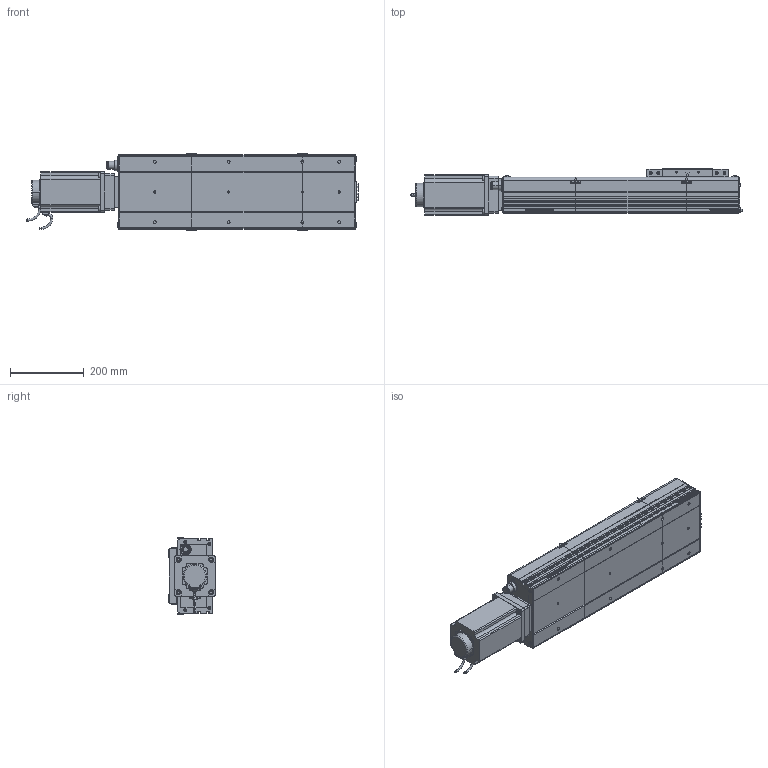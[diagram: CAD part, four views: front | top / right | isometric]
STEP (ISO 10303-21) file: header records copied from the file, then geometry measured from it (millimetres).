
FILE_DESCRIPTION (( 'STEP AP214' ), '1' );
FILE_NAME ('D20 CSH MD S300.STEP', '2010-06-30T07:54:13', ( 'Conseil Régional Haute-Normandie' ), ( 'Conseil Régional Haute-Normandie' ), 'SwSTEP 2.0', 'SolidWorks 2010', '' );
FILE_SCHEMA (( 'AUTOMOTIVE_DESIGN' ));
Length unit declared in the file: millimetre
Products named in the file (28): corps 110BLDC170A-630x; codeur 110BLDC170A-630x; avant 110BLDC170A-630x; Moteur motionking 110BLDC170A-640x; vis M8 L15_Default; Plaque racord D20_Default; Plaque De Serrage Head D20_Default; Glissiere_Default; Support Chariot D20_Default; Chariot D20_Default; vis M5 L15_Default; clavette; Conecteur_Default; Conecteur2_Default; D20 CSH MD S300; Couvercle_Default; Corp Tail D20+100_Default; Tail D20+100_Default; Corp D20 S300_Default; Plaque De Serrage D20_Default; Plaque de Bout Tail D20_Default; Head D20 MD_Default; Couvercle S300_Default; Corp S300_Default; Plaque de Bout Head D20_Default; Couvercle Head_Default; Corp Head D20_Default
Assembly tree (53 placements, depth 4):
  D20 CSH MD S300
    Head D20 MD_Default
      vis M5 L15_Default  x10
      Plaque De Serrage Head D20_Default
      Couvercle Head_Default
      vis M8 L15_Default  x4
      Plaque de Bout Head D20_Default
      Moteur motionking 110BLDC170A-640x
        avant 110BLDC170A-630x
        Conecteur_Default
        Conecteur2_Default
        clavette
        corps 110BLDC170A-630x
        codeur 110BLDC170A-630x
      Corp Head D20_Default
      Plaque racord D20_Default
    Corp D20 S300_Default
      Corp S300_Default
      Couvercle S300_Default
    Tail D20+100_Default
      vis M5 L15_Default  x6
      Plaque de Bout Tail D20_Default
      Plaque De Serrage D20_Default
      Couvercle_Default
      Corp Tail D20+100_Default
    Chariot D20_Default
      vis M5 L15_Default  x8
      Chariot D20_Default
      Glissiere_Default
      Support Chariot D20_Default
Bounding box: 899 x 125.5 x 206 mm (x, y, z)
Volume: 7072797.9 mm3; surface area: 1225573.6 mm2
Topology: 90 solids, 90 shells, 3388 faces, 8555 edges, 5589 vertices
Faces by surface type: plane 1935, bspline 758, cylinder 557, torus 79, cone 59
Entity records: 152307 total; most frequent: CARTESIAN_POINT 79253, ORIENTED_EDGE 14506, DIRECTION 10763, EDGE_CURVE 7253, VERTEX_POINT 4809, LINE 4781, VECTOR 4781, EDGE_LOOP 3060
